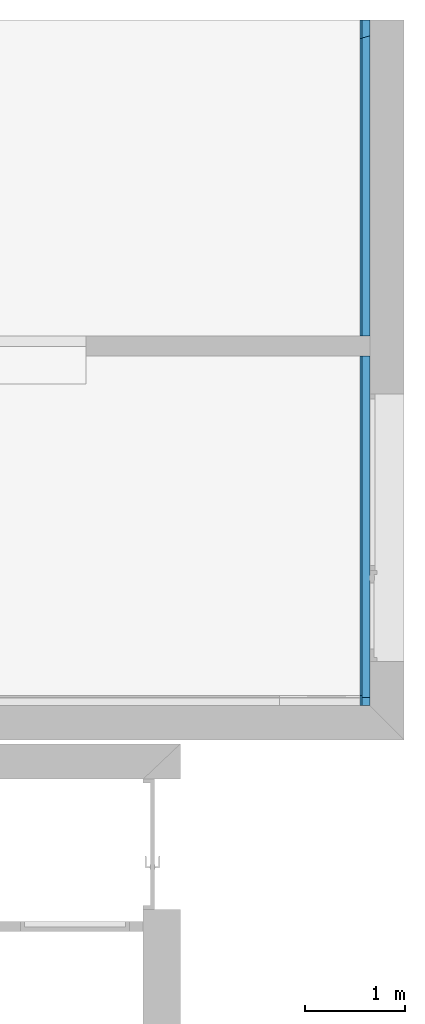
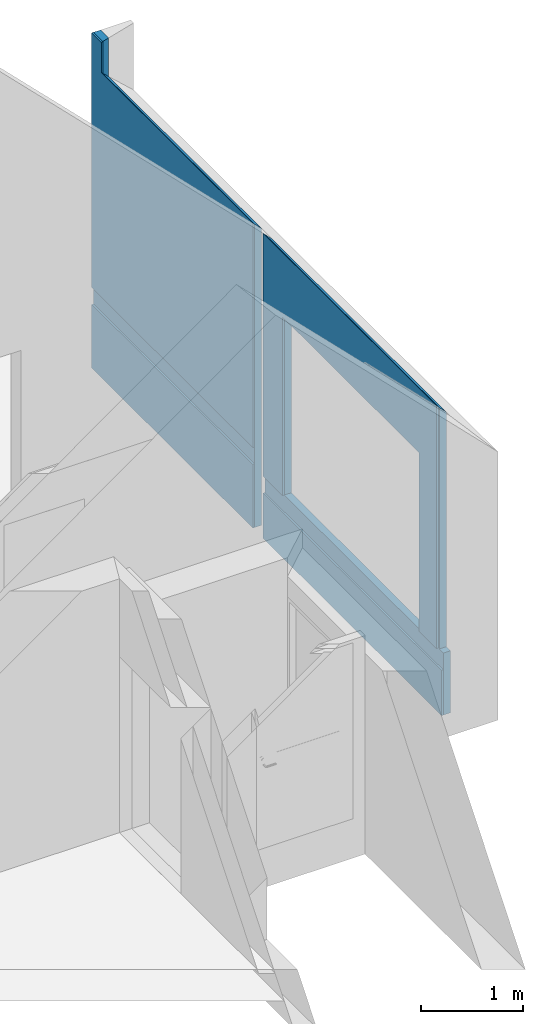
# One storey, part 29 of 34: 4 building element parts, 1 opening, 2 elements without a shape of their own.
"""IFC2X3 building model written with IfcOpenShell, lengths in metres."""

from ifc_helpers import new_model, entity, si_unit, converted_unit, derived_unit, money_unit, direction, frame, origin_with_axes, origin_2d_with_axis, place, context, subcontext, project, spatial, polyline, rectangle, outline, extrude, boolean, faceted_brep, material, type_object, element, aggregate, save


model = new_model("IFC2X3")

# Units and contexts
model_context = context("Model", 3, precision=1e-05, world=origin_with_axes(), true_north=direction((0.0, 1.0)))
body_context = subcontext(model_context, "Body", "Model", "MODEL_VIEW")
ifc_project = project(units=[si_unit("LENGTHUNIT", "METRE"), si_unit("AREAUNIT", "SQUARE_METRE"), si_unit("VOLUMEUNIT", "CUBIC_METRE"), converted_unit("PLANEANGLEUNIT", "DEGREE", entity("IfcPlaneAngleMeasure", 0.0174532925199), si_unit("PLANEANGLEUNIT", "RADIAN"), dimensions=[0, 0, 0, 0, 0, 0, 0]), money_unit("CHF"), converted_unit("TIMEUNIT", "Year", entity("IfcTimeMeasure", 31556926.0), si_unit("TIMEUNIT", "SECOND"), dimensions=[0, 0, 1, 0, 0, 0, 0]), si_unit("MASSUNIT", "GRAM", prefix="KILO"), si_unit("THERMODYNAMICTEMPERATUREUNIT", "DEGREE_CELSIUS"), si_unit("LUMINOUSINTENSITYUNIT", "LUMEN"), si_unit("ENERGYUNIT", "JOULE", prefix="MEGA"), derived_unit("THERMALCONDUCTANCEUNIT", [(si_unit("POWERUNIT", "WATT"), 1), (si_unit("LENGTHUNIT", "METRE"), -1), (si_unit("THERMODYNAMICTEMPERATUREUNIT", "KELVIN"), -1)]), derived_unit("SPECIFICHEATCAPACITYUNIT", [(si_unit("ENERGYUNIT", "JOULE"), 1), (si_unit("MASSUNIT", "GRAM", prefix="KILO"), -1), (si_unit("THERMODYNAMICTEMPERATUREUNIT", "KELVIN"), -1)]), derived_unit("MASSDENSITYUNIT", [(si_unit("MASSUNIT", "GRAM", prefix="KILO"), 1), (si_unit("VOLUMEUNIT", "CUBIC_METRE"), -1)])], contexts=[model_context])

# Site, building, storey
site_placement = place(None, origin_with_axes())
site = spatial("IfcSite", under=ifc_project, at=site_placement, Name="Site", CompositionType="ELEMENT")
building_placement = place(site_placement, origin_with_axes())
building = spatial("IfcBuilding", under=site, at=building_placement, Name="Bâtiment", CompositionType="ELEMENT")
storey_placement = place(building_placement, origin_with_axes())
storey = spatial("IfcBuildingStorey", under=building, at=storey_placement, Name="RDC", CompositionType="ELEMENT", Elevation=-5.32907e-15)

# Wall, opening, building element parts
wall_type = type_object("IfcWallType", Name="DOUBLAGE ISO + BA13 10 CM  100", PredefinedType="NOTDEFINED")
wall_1_placement = place(storey_placement, frame((1699.57729001, 190.60004191, 0.0), z_axis=(0.0, 0.0, 1.0), x_axis=(0.0, 1.0, 0.0)))
wall_1 = element("IfcWall", 1, at=wall_1_placement, inside=storey, type_object=wall_type, Name="Mur-007")
opening_placement = place(wall_1_placement, frame((1.775, 0.0, 0.74), z_axis=(0.0, 0.0, 1.0), x_axis=(1.0, 0.0, 0.0)))
element("IfcOpeningElement", 2, at=opening_placement, cuts=wall_1, Name="Por-005", context=body_context, shape_type="SweptSolid", body=[
    extrude(rectangle(XDim=2.67, YDim=2.13, at=origin_2d_with_axis()), frame((0.0, 0.1, 1.065), z_axis=(0.0, -1.0, 0.0), x_axis=(1.0, 0.0, 0.0)), (0.0, 0.0, -1.0), 0.1),
    extrude(rectangle(XDim=2.67, YDim=2.13, at=origin_2d_with_axis()), frame((0.0, 0.1, 1.065), z_axis=(0.0, 1.0, 0.0), x_axis=(1.0, 0.0, 0.0)), (0.0, 0.0, -1.0), 0.1),
])
ifc_material_1 = material(Name="Plâtre lissé 291446788")
building_element_part_1_placement = place(wall_1_placement, origin_with_axes())
building_element_part_1 = element("IfcBuildingElementPart", 3, at=building_element_part_1_placement, material=ifc_material_1, Name="Plâtre lissé 291446788", context=body_context, shape_type="CSG", body=[
    boolean("DIFFERENCE", boolean("DIFFERENCE", extrude(outline(polyline([(0.0, 0.08), (3.69, 0.08), (3.69, 0.1), (0.0, 0.1), (0.0, 0.08)])), origin_with_axes(), (0.0, 0.0, 1.0), 4.44258067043), faceted_brep([(3.49, 0.100000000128, 0.54), (0.0, 0.100000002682, 0.54), (0.0, 0.1, 4.44258067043), (3.69, 0.1, 4.44258067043), (3.69, 0.1, 0.0), (3.49, 0.100000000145, 0.0), (0.1, 0.100000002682, 0.74), (3.49, 0.100000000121, 0.74), (3.49, 0.100000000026, 3.63999996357), (0.0999999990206, 0.100000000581, 3.63999996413), (3.49, 0.08, 0.54), (0.0, 0.08, 0.54), (0.0, 0.08, 4.44258067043), (3.69, 0.08, 4.44258067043), (3.69, 0.08, 0.0), (3.49, 0.08, 0.0), (0.1, 0.08, 0.74), (3.49, 0.08, 0.74), (3.49, 0.08, 3.61999996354), (0.0999999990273, 0.08, 3.61999996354)], [[[0, 1, 2, 3, 4, 5], [6, 7, 8, 9]], [[10, 11, 1, 0]], [[1, 11, 12, 2]], [[2, 12, 13, 3]], [[13, 14, 4, 3]], [[15, 5, 4, 14]], [[15, 10, 0, 5]], [[16, 17, 7, 6]], [[17, 18, 8, 7]], [[18, 19, 9, 8]], [[19, 16, 6, 9]], [[10, 15, 14, 13, 12, 11], [16, 19, 18, 17]]])), faceted_brep([(0.08, 0.0, 0.74), (0.08, 0.0, 3.53999996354), (3.49, 0.0, 3.53999996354), (3.49, 0.0, 0.0), (3.69, 0.0, 0.0), (3.69, 0.0, 4.44258067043), (0.0, 0.0, 4.44258067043), (0.0, 0.0, 0.74), (0.08, 0.08, 0.74), (0.08, 0.08, 3.61999996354), (0.0999999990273, 0.08, 3.61999996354), (3.49, 0.08, 3.61999996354), (3.49, 0.08, 0.74), (3.49, 0.08, 0.54), (3.49, 0.08, 0.0), (3.69, 0.08, 0.0), (3.69, 0.08, 4.44258067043), (0.0, 0.08, 4.44258067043), (0.0, 0.08, 0.74)], [[[0, 1, 2, 3, 4, 5, 6, 7]], [[1, 0, 8, 9]], [[2, 1, 9, 10, 11]], [[3, 2, 11, 12, 13, 14]], [[3, 14, 15, 4]], [[5, 4, 15, 16]], [[17, 6, 5, 16]], [[18, 7, 6, 17]], [[0, 7, 18, 8]], [[8, 18, 17, 16, 15, 14, 13, 12, 11, 10, 9]]])),
])
ifc_material_2 = material(Name="Isolation laine de pierre 378182646")
building_element_part_2_placement = place(wall_1_placement, origin_with_axes())
building_element_part_2 = element("IfcBuildingElementPart", 4, at=building_element_part_2_placement, material=ifc_material_2, Name="Isolation laine de pierre 378182646", context=body_context, shape_type="CSG", body=[
    boolean("DIFFERENCE", boolean("DIFFERENCE", extrude(outline(polyline([(0.0, 0.0), (3.69, 0.0), (3.69, 0.08), (0.0, 0.08), (0.0, 0.0)])), origin_with_axes(), (0.0, 0.0, 1.0), 4.44258067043), faceted_brep([(3.49, 0.100000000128, 0.54), (0.0, 0.100000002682, 0.54), (0.0, 0.1, 4.44258067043), (3.69, 0.1, 4.44258067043), (3.69, 0.1, 0.0), (3.49, 0.100000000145, 0.0), (0.1, 0.100000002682, 0.74), (3.49, 0.100000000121, 0.74), (3.49, 0.100000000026, 3.63999996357), (0.0999999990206, 0.100000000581, 3.63999996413), (3.49, 0.08, 0.54), (0.0, 0.08, 0.54), (0.0, 0.08, 4.44258067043), (3.69, 0.08, 4.44258067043), (3.69, 0.08, 0.0), (3.49, 0.08, 0.0), (0.1, 0.08, 0.74), (3.49, 0.08, 0.74), (3.49, 0.08, 3.61999996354), (0.0999999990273, 0.08, 3.61999996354)], [[[0, 1, 2, 3, 4, 5], [6, 7, 8, 9]], [[10, 11, 1, 0]], [[1, 11, 12, 2]], [[2, 12, 13, 3]], [[13, 14, 4, 3]], [[15, 5, 4, 14]], [[15, 10, 0, 5]], [[16, 17, 7, 6]], [[17, 18, 8, 7]], [[18, 19, 9, 8]], [[19, 16, 6, 9]], [[10, 15, 14, 13, 12, 11], [16, 19, 18, 17]]])), faceted_brep([(0.08, 0.0, 0.74), (0.08, 0.0, 3.53999996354), (3.49, 0.0, 3.53999996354), (3.49, 0.0, 0.0), (3.69, 0.0, 0.0), (3.69, 0.0, 4.44258067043), (0.0, 0.0, 4.44258067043), (0.0, 0.0, 0.74), (0.08, 0.08, 0.74), (0.08, 0.08, 3.61999996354), (0.0999999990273, 0.08, 3.61999996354), (3.49, 0.08, 3.61999996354), (3.49, 0.08, 0.74), (3.49, 0.08, 0.54), (3.49, 0.08, 0.0), (3.69, 0.08, 0.0), (3.69, 0.08, 4.44258067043), (0.0, 0.08, 4.44258067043), (0.0, 0.08, 0.74)], [[[0, 1, 2, 3, 4, 5, 6, 7]], [[1, 0, 8, 9]], [[2, 1, 9, 10, 11]], [[3, 2, 11, 12, 13, 14]], [[3, 14, 15, 4]], [[5, 4, 15, 16]], [[17, 6, 5, 16]], [[18, 7, 6, 17]], [[0, 7, 18, 8]], [[8, 18, 17, 16, 15, 14, 13, 12, 11, 10, 9]]])),
])
aggregate(wall_1, [building_element_part_1, building_element_part_2])

# Wall, building element parts
wall_2_placement = place(storey_placement, frame((1699.57729001, 194.09004191, 0.0), z_axis=(0.0, 0.0, 1.0), x_axis=(0.0, 1.0, 0.0)))
wall_2 = element("IfcWall", 5, at=wall_2_placement, inside=storey, type_object=wall_type, Name="Mur-008")
building_element_part_3_placement = place(wall_2_placement, origin_with_axes())
building_element_part_3 = element("IfcBuildingElementPart", 6, at=building_element_part_3_placement, material=ifc_material_1, Name="Plâtre lissé 291446788", context=body_context, shape_type="CSG", body=[
    boolean("DIFFERENCE", boolean("DIFFERENCE", extrude(outline(polyline([(0.0, 0.08), (3.35, 0.08), (3.35, 0.1), (0.0, 0.1), (0.0, 0.08)])), origin_with_axes(), (0.0, 0.0, 1.0), 4.0), faceted_brep([(3.16910814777, 0.08, 3.61999996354), (3.16910814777, 0.08, 4.0), (0.0, 0.08, 4.0), (0.0, 0.08, 0.0), (0.2, 0.08, 0.0), (0.2, 0.08, 0.76), (3.35, 0.08, 0.76), (3.35, 0.08, 0.96), (0.2, 0.08, 0.96), (0.2, 0.08, 3.61999996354), (3.16327292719, 0.1, 4.0), (3.16327292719, 0.1, 3.63999996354), (0.0, 0.1, 4.0), (0.0, 0.1, 0.0), (0.2, 0.1, 0.0), (0.2, 0.1, 0.76), (3.35, 0.1, 0.76), (3.35, 0.1, 0.96), (0.2, 0.1, 0.96), (0.2, 0.1, 3.63999996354)], [[[0, 1, 2, 3, 4, 5, 6, 7, 8, 9]], [[10, 1, 0, 11]], [[1, 10, 12, 2]], [[12, 13, 3, 2]], [[14, 4, 3, 13]], [[5, 4, 14, 15]], [[16, 6, 5, 15]], [[17, 7, 6, 16]], [[8, 7, 17, 18]], [[9, 8, 18, 19]], [[0, 9, 19, 11]], [[18, 17, 16, 15, 14, 13, 12, 10, 11, 19]]])), faceted_brep([(0.2, 0.0, 3.53999996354), (3.19244903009, 0.0, 3.53999996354), (3.19244903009, 0.0, 4.0), (0.0, 0.0, 4.0), (0.0, 0.0, 0.0), (0.2, 0.0, 0.0), (0.2, 0.08, 3.61999996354), (3.16910814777, 0.08, 3.61999996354), (3.16910814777, 0.08, 4.0), (0.0, 0.08, 4.0), (0.0, 0.08, 0.0), (0.2, 0.08, 0.0), (0.2, 0.08, 0.76), (0.2, 0.08, 0.96)], [[[0, 1, 2, 3, 4, 5]], [[1, 0, 6, 7]], [[8, 2, 1, 7]], [[2, 8, 9, 3]], [[9, 10, 4, 3]], [[11, 5, 4, 10]], [[0, 5, 11, 12, 13, 6]], [[12, 11, 10, 9, 8, 7, 6, 13]]])),
])
building_element_part_4_placement = place(wall_2_placement, origin_with_axes())
building_element_part_4 = element("IfcBuildingElementPart", 7, at=building_element_part_4_placement, material=ifc_material_2, Name="Isolation laine de pierre 378182646", context=body_context, shape_type="CSG", body=[
    boolean("DIFFERENCE", boolean("DIFFERENCE", extrude(outline(polyline([(0.0, 0.0), (3.35, 0.0), (3.35, 0.08), (0.0, 0.08), (0.0, 0.0)])), origin_with_axes(), (0.0, 0.0, 1.0), 4.0), faceted_brep([(3.16910814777, 0.08, 3.61999996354), (3.16910814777, 0.08, 4.0), (0.0, 0.08, 4.0), (0.0, 0.08, 0.0), (0.2, 0.08, 0.0), (0.2, 0.08, 0.76), (3.35, 0.08, 0.76), (3.35, 0.08, 0.96), (0.2, 0.08, 0.96), (0.2, 0.08, 3.61999996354), (3.16327292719, 0.1, 4.0), (3.16327292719, 0.1, 3.63999996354), (0.0, 0.1, 4.0), (0.0, 0.1, 0.0), (0.2, 0.1, 0.0), (0.2, 0.1, 0.76), (3.35, 0.1, 0.76), (3.35, 0.1, 0.96), (0.2, 0.1, 0.96), (0.2, 0.1, 3.63999996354)], [[[0, 1, 2, 3, 4, 5, 6, 7, 8, 9]], [[10, 1, 0, 11]], [[1, 10, 12, 2]], [[12, 13, 3, 2]], [[14, 4, 3, 13]], [[5, 4, 14, 15]], [[16, 6, 5, 15]], [[17, 7, 6, 16]], [[8, 7, 17, 18]], [[9, 8, 18, 19]], [[0, 9, 19, 11]], [[18, 17, 16, 15, 14, 13, 12, 10, 11, 19]]])), faceted_brep([(0.2, 0.0, 3.53999996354), (3.19244903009, 0.0, 3.53999996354), (3.19244903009, 0.0, 4.0), (0.0, 0.0, 4.0), (0.0, 0.0, 0.0), (0.2, 0.0, 0.0), (0.2, 0.08, 3.61999996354), (3.16910814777, 0.08, 3.61999996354), (3.16910814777, 0.08, 4.0), (0.0, 0.08, 4.0), (0.0, 0.08, 0.0), (0.2, 0.08, 0.0), (0.2, 0.08, 0.76), (0.2, 0.08, 0.96)], [[[0, 1, 2, 3, 4, 5]], [[1, 0, 6, 7]], [[8, 2, 1, 7]], [[2, 8, 9, 3]], [[9, 10, 4, 3]], [[11, 5, 4, 10]], [[0, 5, 11, 12, 13, 6]], [[12, 11, 10, 9, 8, 7, 6, 13]]])),
])
aggregate(wall_2, [building_element_part_3, building_element_part_4])

save(model, "model.ifc")
